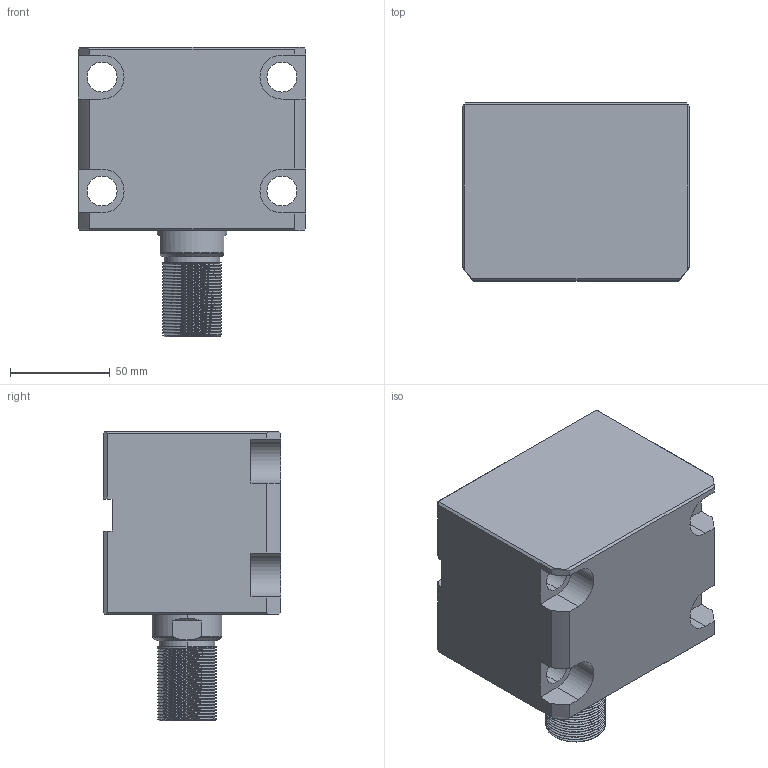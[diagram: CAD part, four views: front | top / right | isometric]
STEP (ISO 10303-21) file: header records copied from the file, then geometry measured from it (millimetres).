
FILE_DESCRIPTION (( 'STEP AP214' ), '1' );
FILE_NAME ('chtb-lam63x25w_asm.STEP', '2018-05-22T03:29:45', ( 'Windows' ), ( 'Microsoft' ), 'SwSTEP 2.0', 'SolidWorks 2015', '' );
FILE_SCHEMA (( 'AUTOMOTIVE_DESIGN' ));
Length unit declared in the file: millimetre
Products named in the file (4): CHTB-LAM63X25NBT; CHTB63X25WHSG; CHTB-63QG; chtb-lam63x25w_asm
Assembly tree (3 placements, depth 2):
  chtb-lam63x25w_asm
    CHTB-63QG
    CHTB63X25WHSG
    CHTB-LAM63X25NBT
Bounding box: 114 x 89 x 145 mm (x, y, z)
Volume: 827779 mm3; surface area: 133112 mm2
Topology: 3 solids, 3 shells, 229 faces, 681 edges, 463 vertices
Faces by surface type: cylinder 145, plane 54, bspline 15, cone 9, torus 6
Entity records: 23331 total; most frequent: CARTESIAN_POINT 17747, ORIENTED_EDGE 1354, DIRECTION 909, EDGE_CURVE 677, VERTEX_POINT 463, AXIS2_PLACEMENT_3D 330, EDGE_LOOP 252, VECTOR 249
